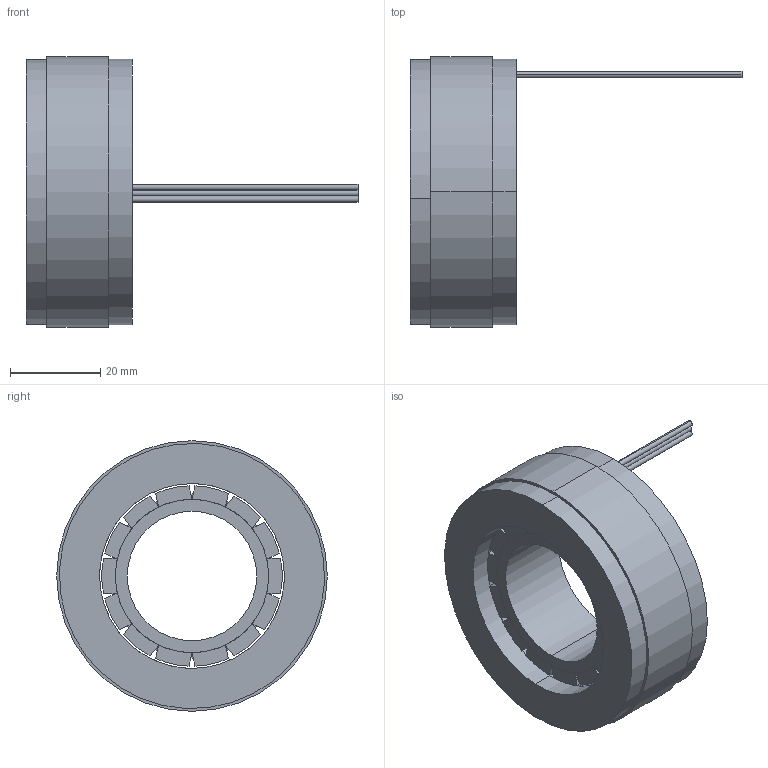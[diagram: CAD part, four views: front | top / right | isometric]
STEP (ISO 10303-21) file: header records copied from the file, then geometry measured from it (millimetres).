
FILE_DESCRIPTION (( 'STEP AP203' ), '1' );
FILE_NAME ('60LW05×°Åä.STEP', '2025-09-04T01:47:21', ( 'China' ), ( 'Microsoft' ), 'SwSTEP 2.0', 'SolidWorks 2017', '' );
FILE_SCHEMA (( 'CONFIG_CONTROL_DESIGN' ));
Length unit declared in the file: millimetre
Products named in the file (9): 隅赽; 棠詩; 蛌赽; 绕组非出线端; 諾陑粣; 竘堤盄; 绕组出线端; 60LW05蚾饜; 隅赽沺陑
Assembly tree (21 placements, depth 3):
  60LW05蚾饜
    隅赽
      隅赽沺陑
      绕组非出线端
      绕组出线端
      竘堤盄
    蛌赽
      諾陑粣
      棠詩  x14
Bounding box: 73.6 x 60 x 60 mm (x, y, z)
Volume: 44021.6 mm3; surface area: 25826.8 mm2
Topology: 21 solids, 21 shells, 123 faces, 240 edges, 160 vertices
Faces by surface type: plane 71, cylinder 52
Entity records: 2545 total; most frequent: DIRECTION 278, CARTESIAN_POINT 211, ORIENTED_EDGE 168, AXIS2_PLACEMENT_3D 123, PERSON_AND_ORGANIZATION 93, LOCAL_TIME 87, CALENDAR_DATE 87, COORDINATED_UNIVERSAL_TIME_OFFSET 87
